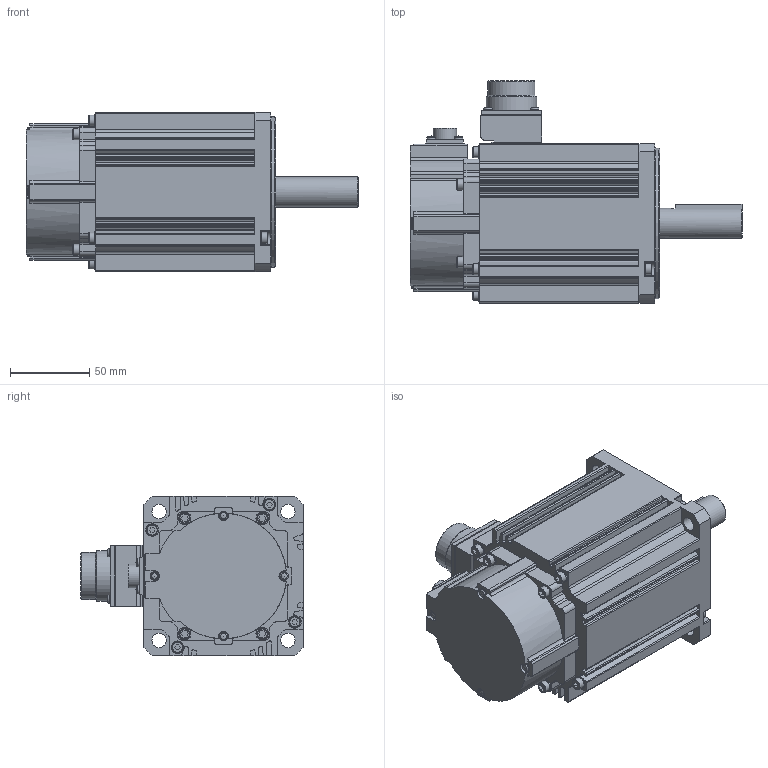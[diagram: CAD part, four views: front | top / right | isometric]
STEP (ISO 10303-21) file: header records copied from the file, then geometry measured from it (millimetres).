
FILE_DESCRIPTION( ( 'STEP AP214' ), ' ' );
FILE_NAME( 'p:/temp/worker_261/1028_4324/app_49_12016081613240103244785260eae72_000000_00_00_000000/format_0/MSMF152L1G5.stp', '2016-08-16T11:24:02', ( '' ), ( '' ), ' ', 'PARTsolutions', ' ' );
FILE_SCHEMA( ( 'AUTOMOTIVE_DESIGN { 1 0 10303 214 1 1 1 1 }' ) );
Length unit declared in the file: millimetre
Products named in the file (2): MSMF152L1G5; _MSMF152L1G5 _body
Assembly tree (1 placements, depth 2):
  MSMF152L1G5
    _MSMF152L1G5 _body
Bounding box: 209.5 x 140.3 x 100.6 mm (x, y, z)
Volume: 1308350.5 mm3; surface area: 104015.5 mm2
Topology: 1 solids, 1 shells, 575 faces, 1531 edges, 1003 vertices
Faces by surface type: plane 290, cylinder 226, cone 30, torus 17, sphere 12
Full cylindrical faces by diameter (mm): 2.459 x1, 7 x12, 8 x12, 9 x4, 14.8 x1, 19 x1, 29.75 x1, 31.75 x1, 35 x1, 43 x1, 87 x1, 95 x1
Entity records: 22139 total; most frequent: CARTESIAN_POINT 3263, DIRECTION 3031, ORIENTED_EDGE 2826, EDGE_CURVE 1413, AXIS2_PLACEMENT_3D 1076, VERTEX_POINT 988, LINE 879, VECTOR 879
